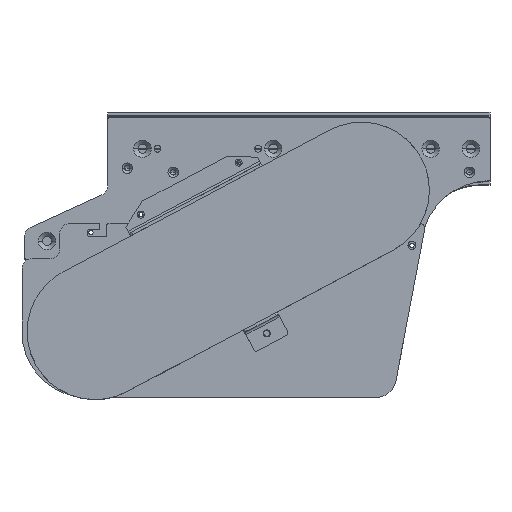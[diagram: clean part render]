
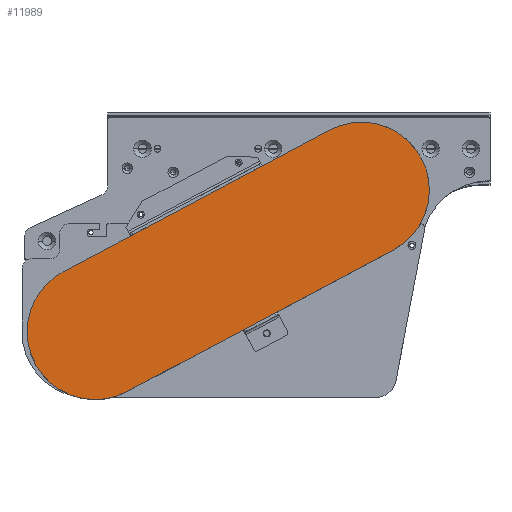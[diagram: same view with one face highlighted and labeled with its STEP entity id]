
A CAD part, top view. The second image highlights one B-rep face of the part: STEP entity #11989.
In plain terms, the highlighted planar face has unit normal (0, 0, 1).
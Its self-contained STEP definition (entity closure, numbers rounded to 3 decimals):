
#293 = ORIENTED_EDGE ( 'NONE', *, *, #1280, .T. ) ;
#341 = AXIS2_PLACEMENT_3D ( 'NONE', #16663, #15192, #10884 ) ;
#526 = CARTESIAN_POINT ( 'NONE',  ( -96.101, -100.833, 95.5 ) ) ;
#561 = DIRECTION ( 'NONE',  ( 1., 0., 0. ) ) ;
#741 = DIRECTION ( 'NONE',  ( -0.883, -0.469, 0. ) ) ;
#1280 = EDGE_CURVE ( 'NONE', #17992, #2539, #4613, .T. ) ;
#1371 = CARTESIAN_POINT ( 'NONE',  ( -127.79, -41.234, 95.5 ) ) ;
#2163 = CARTESIAN_POINT ( 'NONE',  ( -159.479, 18.365, 95.5 ) ) ;
#2462 = CIRCLE ( 'NONE', #12152, 67.5 ) ;
#2539 = VERTEX_POINT ( 'NONE', #2163 ) ;
#2761 = EDGE_LOOP ( 'NONE', ( #293, #16282, #18052, #11431, #7411 ) ) ;
#3073 = VERTEX_POINT ( 'NONE', #16438 ) ;
#3298 = CARTESIAN_POINT ( 'NONE',  ( -424.364, -122.476, 95.5 ) ) ;
#3364 = LINE ( 'NONE', #11194, #4777 ) ;
#4613 = CIRCLE ( 'NONE', #341, 67.5 ) ;
#4777 = VECTOR ( 'NONE', #741, 1000. ) ;
#4892 = AXIS2_PLACEMENT_3D ( 'NONE', #1371, #11799, #5784 ) ;
#5665 = VERTEX_POINT ( 'NONE', #3298 ) ;
#5784 = DIRECTION ( 'NONE',  ( 1., 0., 0. ) ) ;
#5910 = EDGE_CURVE ( 'NONE', #5665, #12010, #14521, .T. ) ;
#6655 = DIRECTION ( 'NONE',  ( 0., 0., 1. ) ) ;
#7411 = ORIENTED_EDGE ( 'NONE', *, *, #17948, .T. ) ;
#7425 = DIRECTION ( 'NONE',  ( 1., 0., 0. ) ) ;
#9642 = VECTOR ( 'NONE', #10847, 1000. ) ;
#10083 = AXIS2_PLACEMENT_3D ( 'NONE', #17127, #18846, #7425 ) ;
#10160 = EDGE_CURVE ( 'NONE', #12010, #3073, #2462, .T. ) ;
#10277 = PLANE ( 'NONE',  #4892 ) ;
#10814 = CARTESIAN_POINT ( 'NONE',  ( -392.674, -182.075, 95.5 ) ) ;
#10847 = DIRECTION ( 'NONE',  ( 0.883, 0.469, 0. ) ) ;
#10884 = DIRECTION ( 'NONE',  ( 1., 0., 0. ) ) ;
#11194 = CARTESIAN_POINT ( 'NONE',  ( -159.479, 18.365, 95.5 ) ) ;
#11431 = ORIENTED_EDGE ( 'NONE', *, *, #10160, .T. ) ;
#11799 = DIRECTION ( 'NONE',  ( 0., 0., 1. ) ) ;
#11989 = ADVANCED_FACE ( 'NONE', ( #13960 ), #10277, .T. ) ;
#12010 = VERTEX_POINT ( 'NONE', #14637 ) ;
#12144 = CARTESIAN_POINT ( 'NONE',  ( -96.101, -100.833, 95.5 ) ) ;
#12152 = AXIS2_PLACEMENT_3D ( 'NONE', #10814, #6655, #561 ) ;
#13960 = FACE_OUTER_BOUND ( 'NONE', #2761, .T. ) ;
#14521 = CIRCLE ( 'NONE', #10083, 67.5 ) ;
#14637 = CARTESIAN_POINT ( 'NONE',  ( -460.174, -182.075, 95.5 ) ) ;
#15192 = DIRECTION ( 'NONE',  ( 0., 0., 1. ) ) ;
#16282 = ORIENTED_EDGE ( 'NONE', *, *, #17861, .T. ) ;
#16438 = CARTESIAN_POINT ( 'NONE',  ( -360.985, -241.674, 95.5 ) ) ;
#16663 = CARTESIAN_POINT ( 'NONE',  ( -127.79, -41.234, 95.5 ) ) ;
#17127 = CARTESIAN_POINT ( 'NONE',  ( -392.674, -182.075, 95.5 ) ) ;
#17420 = LINE ( 'NONE', #12144, #9642 ) ;
#17861 = EDGE_CURVE ( 'NONE', #2539, #5665, #3364, .T. ) ;
#17948 = EDGE_CURVE ( 'NONE', #3073, #17992, #17420, .T. ) ;
#17992 = VERTEX_POINT ( 'NONE', #526 ) ;
#18052 = ORIENTED_EDGE ( 'NONE', *, *, #5910, .T. ) ;
#18846 = DIRECTION ( 'NONE',  ( 0., 0., 1. ) ) ;
